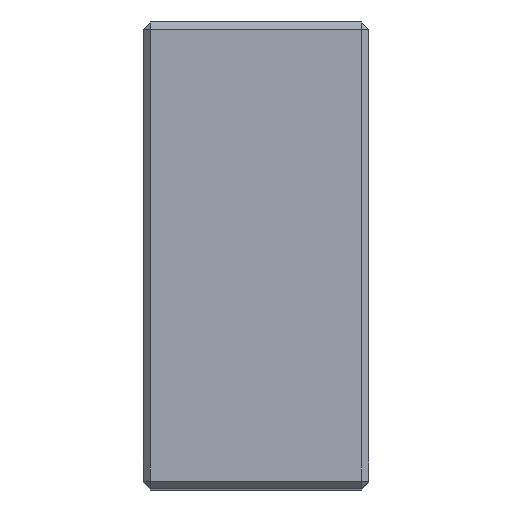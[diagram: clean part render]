
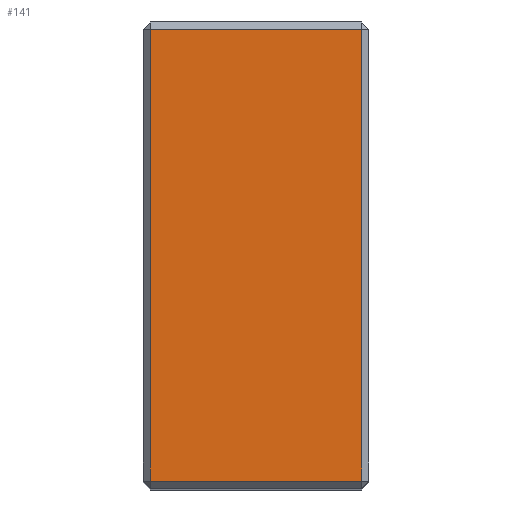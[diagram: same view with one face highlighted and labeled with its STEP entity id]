
A CAD part, top view. The second image highlights one B-rep face of the part: STEP entity #141.
In plain terms, the highlighted planar face has unit normal (0, 0, 1).
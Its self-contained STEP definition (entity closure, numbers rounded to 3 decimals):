
#16 = PLANE ( 'NONE',  #550 ) ;
#34 = VERTEX_POINT ( 'NONE', #107 ) ;
#52 = VERTEX_POINT ( 'NONE', #225 ) ;
#55 = EDGE_CURVE ( 'NONE', #34, #52, #181, .T. ) ;
#60 = ORIENTED_EDGE ( 'NONE', *, *, #511, .T. ) ;
#64 = CARTESIAN_POINT ( 'NONE',  ( 16., 1., 78. ) ) ;
#100 = ORIENTED_EDGE ( 'NONE', *, *, #637, .T. ) ;
#107 = CARTESIAN_POINT ( 'NONE',  ( -15., 1., 78. ) ) ;
#135 = DIRECTION ( 'NONE',  ( 1., 0., 0. ) ) ;
#141 = ADVANCED_FACE ( 'NONE', ( #400 ), #16, .F. ) ;
#160 = VERTEX_POINT ( 'NONE', #272 ) ;
#181 = LINE ( 'NONE', #64, #242 ) ;
#187 = CARTESIAN_POINT ( 'NONE',  ( -15., 65., 78. ) ) ;
#199 = ORIENTED_EDGE ( 'NONE', *, *, #55, .T. ) ;
#220 = VERTEX_POINT ( 'NONE', #187 ) ;
#225 = CARTESIAN_POINT ( 'NONE',  ( 15., 1., 78. ) ) ;
#242 = VECTOR ( 'NONE', #135, 1000. ) ;
#272 = CARTESIAN_POINT ( 'NONE',  ( 15., 65., 78. ) ) ;
#304 = DIRECTION ( 'NONE',  ( 0., 1., 0. ) ) ;
#317 = EDGE_CURVE ( 'NONE', #160, #220, #433, .T. ) ;
#321 = CARTESIAN_POINT ( 'NONE',  ( 15., 66., 78. ) ) ;
#390 = VECTOR ( 'NONE', #304, 1000. ) ;
#400 = FACE_OUTER_BOUND ( 'NONE', #431, .T. ) ;
#404 = DIRECTION ( 'NONE',  ( 0., 0., -1. ) ) ;
#425 = ORIENTED_EDGE ( 'NONE', *, *, #317, .T. ) ;
#431 = EDGE_LOOP ( 'NONE', ( #425, #100, #199, #60 ) ) ;
#433 = LINE ( 'NONE', #464, #573 ) ;
#457 = CARTESIAN_POINT ( 'NONE',  ( 16., 66., 78. ) ) ;
#464 = CARTESIAN_POINT ( 'NONE',  ( -16., 65., 78. ) ) ;
#465 = CARTESIAN_POINT ( 'NONE',  ( -15., 66., 78. ) ) ;
#469 = DIRECTION ( 'NONE',  ( -1., 0., 0. ) ) ;
#471 = VECTOR ( 'NONE', #600, 1000. ) ;
#489 = LINE ( 'NONE', #465, #471 ) ;
#511 = EDGE_CURVE ( 'NONE', #52, #160, #528, .T. ) ;
#528 = LINE ( 'NONE', #321, #390 ) ;
#550 = AXIS2_PLACEMENT_3D ( 'NONE', #457, #404, #560 ) ;
#560 = DIRECTION ( 'NONE',  ( -1., 0., 0. ) ) ;
#573 = VECTOR ( 'NONE', #469, 1000. ) ;
#600 = DIRECTION ( 'NONE',  ( 0., -1., 0. ) ) ;
#637 = EDGE_CURVE ( 'NONE', #220, #34, #489, .T. ) ;
